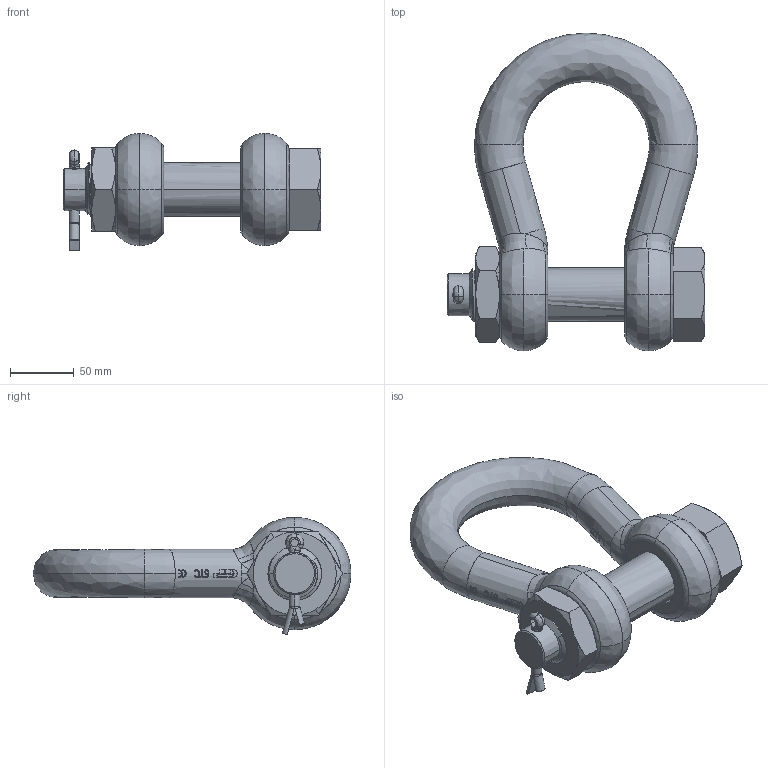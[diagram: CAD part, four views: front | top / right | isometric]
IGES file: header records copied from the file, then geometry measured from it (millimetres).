
Start section: START RECORD GO HERE.
Global section: file name: 17.igs; native system: Solidworks 2009            ion 5 Release 17 ; preprocessor: CATIA Version 5 Release 17 ; author: v.b.; organization: P4; date: 20090807.082403; units: millimetre
Bounding box: 202 x 249 x 91.86 mm (x, y, z)
Surface area: 138745 mm2 (no closed solid volume)
Topology: 0 solids, 0 shells, 752 faces, 4633 edges, 4625 vertices
Faces by surface type: plane 301, bspline 284, revolution 167
